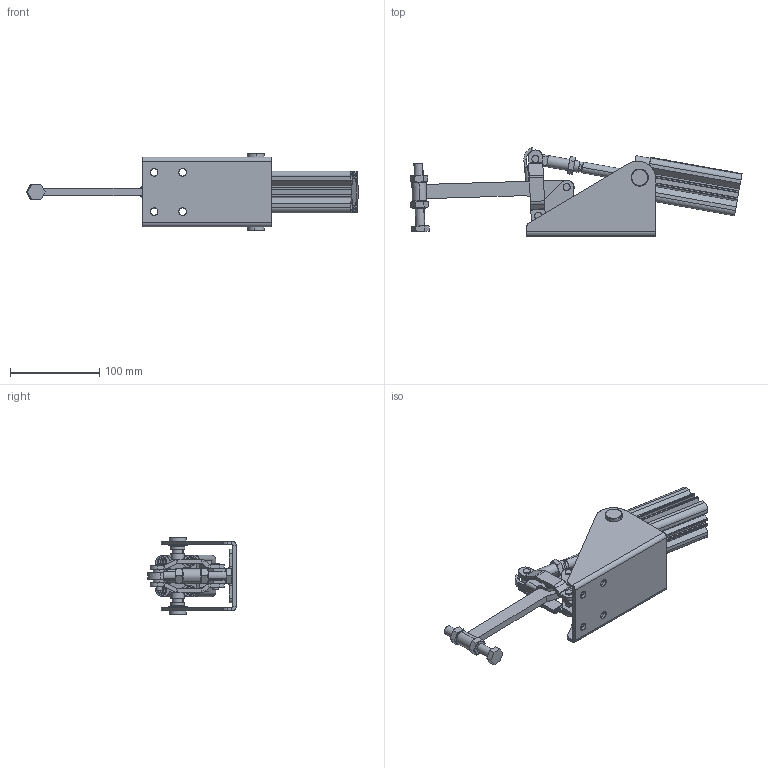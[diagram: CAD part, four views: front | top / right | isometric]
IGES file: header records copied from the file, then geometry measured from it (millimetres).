
Start section: SolidWorks IGES file using analytic representation for surfaces
Global section: file name: C:\Projetos\Grampos\KF-011 P\KF-011 DS P\KF-011 DS P.IGS; native system: SolidWorks 2015; preprocessor: SolidWorks 2015; author: Ricardo; date: 161215.083112; units: millimetre
Bounding box: 372.71 x 99.27 x 86.5 mm (x, y, z)
Surface area: 173365.8 mm2 (no closed solid volume)
Topology: 0 solids, 0 shells, 719 faces, 11646 edges, 11632 vertices
Faces by surface type: revolution 417, bspline 302
